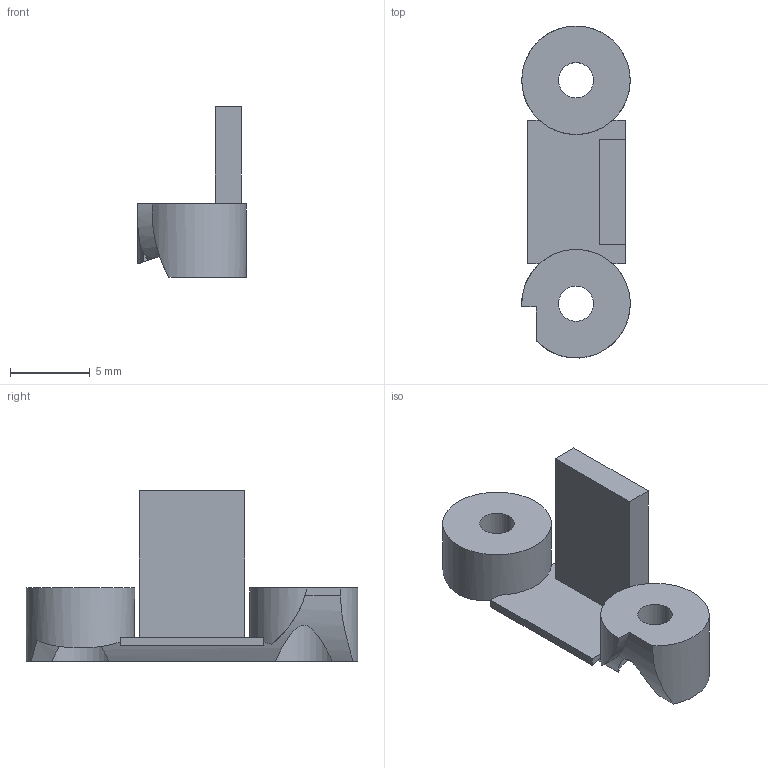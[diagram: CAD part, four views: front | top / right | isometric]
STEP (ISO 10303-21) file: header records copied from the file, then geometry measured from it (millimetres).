
FILE_DESCRIPTION(/* description */ (''),/* implementation_level */ '2;1');
FILE_NAME(/* name */ 'P17.step',/* time_stamp */ '2026-09-15T15:15:07-07:00',/* author */ (''),/* organization */ (''),/* preprocessor_version */ 'ST-DEVELOPER v20.1',/* originating_system */ 'Autodesk Translation Framework v15.8.0.0',/* authorisation */ '');
FILE_SCHEMA (('AUTOMOTIVE_DESIGN { 1 0 10303 214 3 1 1 }'));
Length unit declared in the file: millimetre
Products named in the file (1): 2026-09-15-15-15-07-851
Bounding box: 6.8 x 20.8 x 10.7 mm (x, y, z)
Volume: 372.5 mm3; surface area: 671.3 mm2
Topology: 1 solids, 1 shells, 27 faces, 75 edges, 50 vertices
Faces by surface type: plane 18, cylinder 9
Full cylindrical faces by diameter (mm): 2.2 x2, 4.6 x2, 6.8 x1
Entity records: 1067 total; most frequent: CARTESIAN_POINT 325, ORIENTED_EDGE 150, DIRECTION 144, EDGE_CURVE 75, VERTEX_POINT 50, AXIS2_PLACEMENT_3D 49, LINE 46, VECTOR 46
